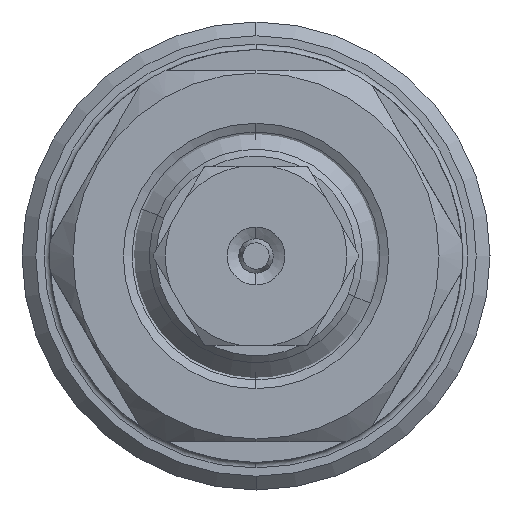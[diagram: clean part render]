
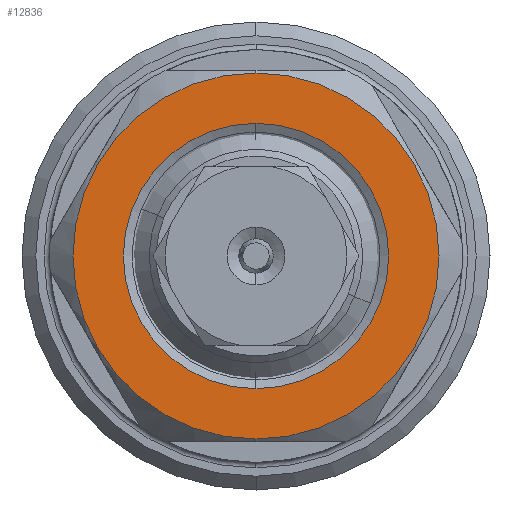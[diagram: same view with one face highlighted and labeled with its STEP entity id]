
A CAD part, left-side view. The second image highlights one B-rep face of the part: STEP entity #12836.
In plain terms, the highlighted planar face has unit normal (-1, 0, 0).
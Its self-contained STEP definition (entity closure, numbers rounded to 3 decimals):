
#29 = DIRECTION ( 'NONE',  ( 0., 0., 1. ) ) ;
#30 = DIRECTION ( 'NONE',  ( -1., 0., 0. ) ) ;
#31 = CARTESIAN_POINT ( 'NONE',  ( -78., 13.3, 0. ) ) ;
#40 = PLANE ( 'NONE',  #5340 ) ;
#1627 = EDGE_LOOP ( 'NONE', ( #1795, #1796 ) ) ;
#1650 = EDGE_LOOP ( 'NONE', ( #1793, #1794 ) ) ;
#1793 = ORIENTED_EDGE ( 'NONE', *, *, #14312, .T. ) ;
#1794 = ORIENTED_EDGE ( 'NONE', *, *, #13817, .T. ) ;
#1795 = ORIENTED_EDGE ( 'NONE', *, *, #13797, .F. ) ;
#1796 = ORIENTED_EDGE ( 'NONE', *, *, #14298, .F. ) ;
#2851 = VERTEX_POINT ( 'NONE', #13498 ) ;
#2907 = VERTEX_POINT ( 'NONE', #13463 ) ;
#5340 = AXIS2_PLACEMENT_3D ( 'NONE', #31, #30, #29 ) ;
#5489 = AXIS2_PLACEMENT_3D ( 'NONE', #17389, #17390, #17391 ) ;
#5499 = AXIS2_PLACEMENT_3D ( 'NONE', #17457, #17458, #17459 ) ;
#5767 = AXIS2_PLACEMENT_3D ( 'NONE', #18085, #18086, #18087 ) ;
#5778 = AXIS2_PLACEMENT_3D ( 'NONE', #18127, #18128, #18129 ) ;
#9183 = CIRCLE ( 'NONE', #5499, 9.636 ) ;
#9192 = FACE_BOUND ( 'NONE', #1650, .T. ) ;
#9344 = CIRCLE ( 'NONE', #5489, 13.3 ) ;
#9444 = FACE_OUTER_BOUND ( 'NONE', #1627, .T. ) ;
#10561 = VERTEX_POINT ( 'NONE', #13714 ) ;
#10786 = VERTEX_POINT ( 'NONE', #12309 ) ;
#12309 = CARTESIAN_POINT ( 'NONE',  ( -78., 0., 9.636 ) ) ;
#12836 = ADVANCED_FACE ( 'NONE', ( #9192, #9444 ), #40, .T. ) ;
#13463 = CARTESIAN_POINT ( 'NONE',  ( -78., 0., 13.3 ) ) ;
#13498 = CARTESIAN_POINT ( 'NONE',  ( -78., 0., -13.3 ) ) ;
#13714 = CARTESIAN_POINT ( 'NONE',  ( -78., 0., -9.636 ) ) ;
#13797 = EDGE_CURVE ( 'NONE', #2851, #2907, #9344, .T. ) ;
#13817 = EDGE_CURVE ( 'NONE', #10561, #10786, #9183, .T. ) ;
#14298 = EDGE_CURVE ( 'NONE', #2907, #2851, #14608, .T. ) ;
#14312 = EDGE_CURVE ( 'NONE', #10786, #10561, #14624, .T. ) ;
#14608 = CIRCLE ( 'NONE', #5767, 13.3 ) ;
#14624 = CIRCLE ( 'NONE', #5778, 9.636 ) ;
#17389 = CARTESIAN_POINT ( 'NONE',  ( -78., 0., 0. ) ) ;
#17390 = DIRECTION ( 'NONE',  ( 1., 0., 0. ) ) ;
#17391 = DIRECTION ( 'NONE',  ( 0., 0., -1. ) ) ;
#17457 = CARTESIAN_POINT ( 'NONE',  ( -78., 0., 0. ) ) ;
#17458 = DIRECTION ( 'NONE',  ( 1., 0., 0. ) ) ;
#17459 = DIRECTION ( 'NONE',  ( 0., 0., 1. ) ) ;
#18085 = CARTESIAN_POINT ( 'NONE',  ( -78., 0., 0. ) ) ;
#18086 = DIRECTION ( 'NONE',  ( 1., 0., 0. ) ) ;
#18087 = DIRECTION ( 'NONE',  ( 0., 0., -1. ) ) ;
#18127 = CARTESIAN_POINT ( 'NONE',  ( -78., 0., 0. ) ) ;
#18128 = DIRECTION ( 'NONE',  ( 1., 0., 0. ) ) ;
#18129 = DIRECTION ( 'NONE',  ( 0., 0., 1. ) ) ;
